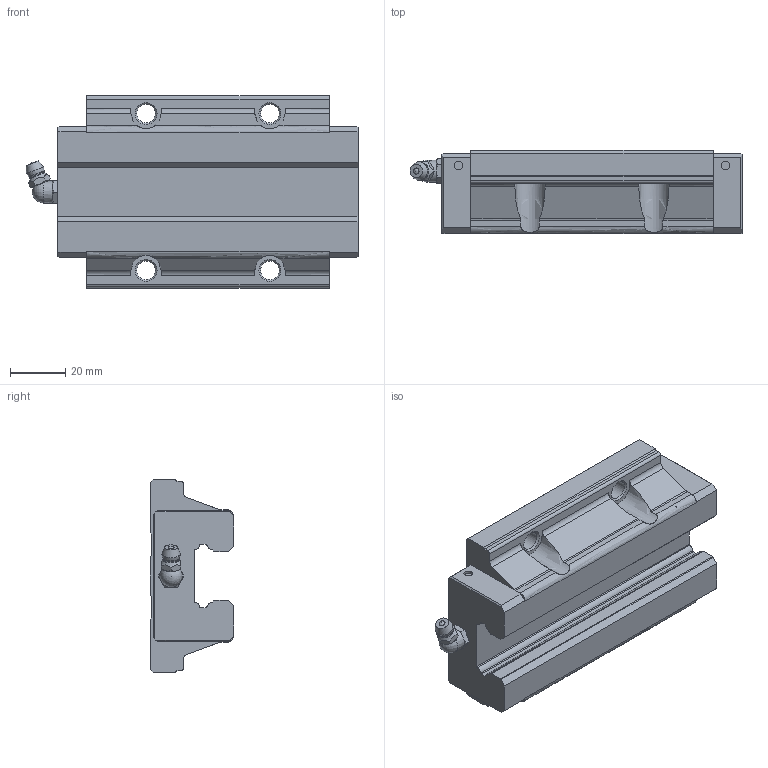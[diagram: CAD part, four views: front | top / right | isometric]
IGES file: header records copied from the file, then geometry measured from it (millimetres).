
Start section: Data from Parasolid IGES Translator 26.0.171, Copyright(c) 2006 Siemens PLM Software. All Rights Reserved.
Global section: file name: SHS25LC1SS(GK) BLOCK(B-M6F1).igs; native system: By Siemens PLM Incorporated; preprocessor: XPlus GENERIC/IGES 26.0.171; author: Noname; organization: Noname; date: 20240514.043609; units: millimetre
Bounding box: 120.6 x 30.2 x 70 mm (x, y, z)
Surface area: 27899.3 mm2 (no closed solid volume)
Topology: 0 solids, 0 shells, 185 faces, 1036 edges, 1009 vertices
Faces by surface type: extrusion 102, revolution 83
